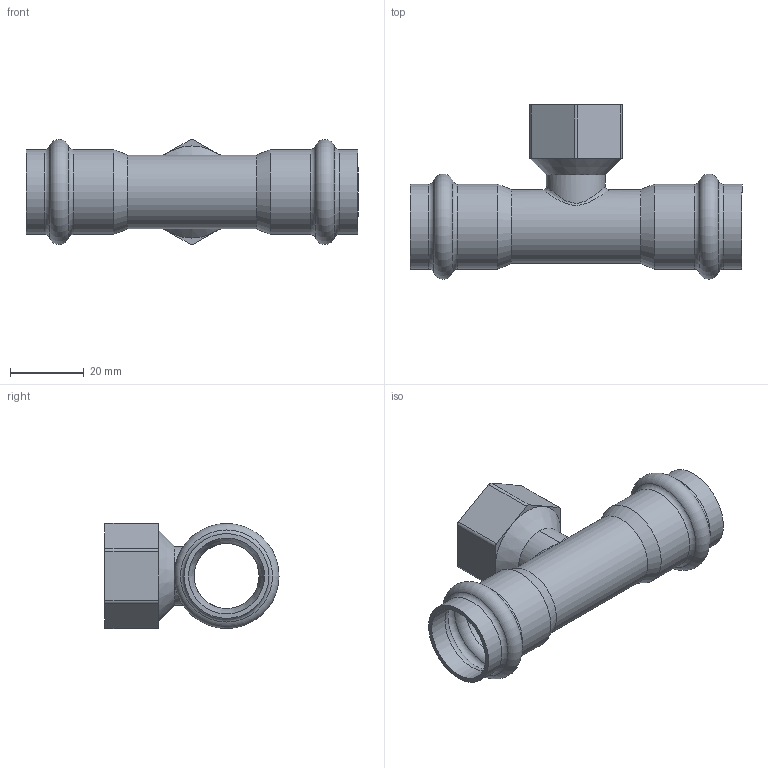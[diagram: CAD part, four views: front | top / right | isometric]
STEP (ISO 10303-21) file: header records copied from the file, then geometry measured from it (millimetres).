
FILE_DESCRIPTION(/* description */ (''),/* implementation_level */ '2;1');
FILE_NAME(/* name */ '51267010001.stp',/* time_stamp */ '2020-06-22T14:51:55+08:00',/* author */ (''),/* organization */ (''),/* preprocessor_version */ 'ST-DEVELOPER v11',/* originating_system */ 'SIEMENS PLM Software NX 7.5',/* authorisation */ '');
FILE_SCHEMA (('CONFIG_CONTROL_DESIGN'));
Length unit declared in the file: millimetre
Products named in the file (1): Admi4F60b48c
Bounding box: 90 x 47.21 x 28.56 mm (x, y, z)
Volume: 12211.4 mm3; surface area: 16066.8 mm2
Topology: 1 solids, 1 shells, 49 faces, 109 edges, 64 vertices
Faces by surface type: cylinder 19, torus 12, plane 10, cone 7, bspline 1
Full cylindrical faces by diameter (mm): 14.4 x1, 16 x1, 17.6 x1, 18.6 x1, 20 x1, 20.6 x4, 23 x4
Entity records: 1431 total; most frequent: CARTESIAN_POINT 382, DIRECTION 214, ORIENTED_EDGE 146, AXIS2_PLACEMENT_3D 95, EDGE_LOOP 88, FACE_BOUND 76, EDGE_CURVE 73, VERTEX_POINT 61
